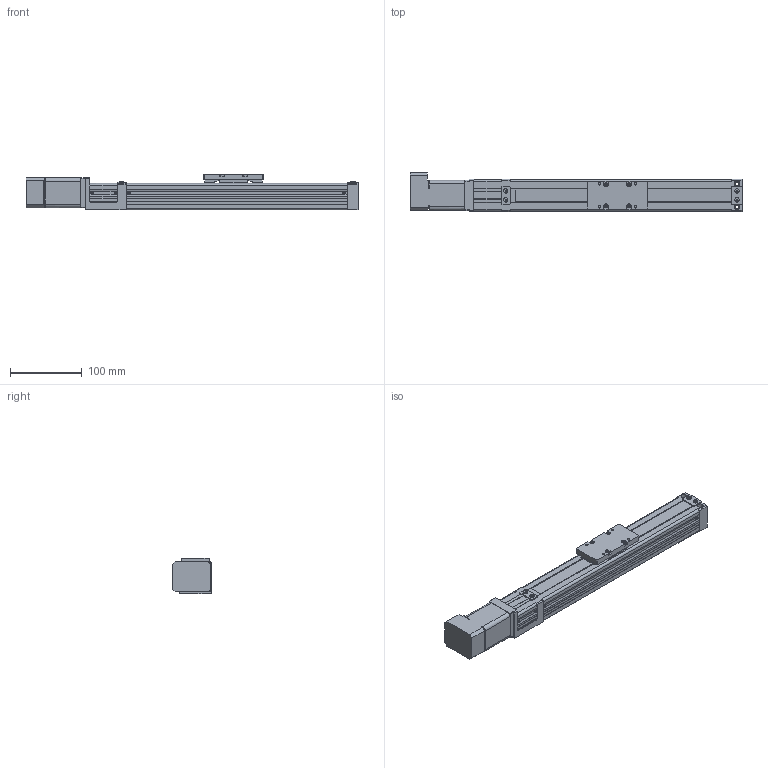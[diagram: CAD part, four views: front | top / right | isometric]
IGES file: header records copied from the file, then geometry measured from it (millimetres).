
Global section: file name: No Iges File Name specified; native system: AutoDesk Inventor R10; preprocessor: AutoDesk Inventor Iges Exporter R10; author: No Author specified; organization: No Organization specified; date: 20110617.145405; units: millimetre
Bounding box: 462.5 x 54.5 x 50 mm (x, y, z)
Surface area: 177806.2 mm2 (no closed solid volume)
Topology: 0 solids, 0 shells, 869 faces, 5694 edges, 5666 vertices
Faces by surface type: bspline 869
